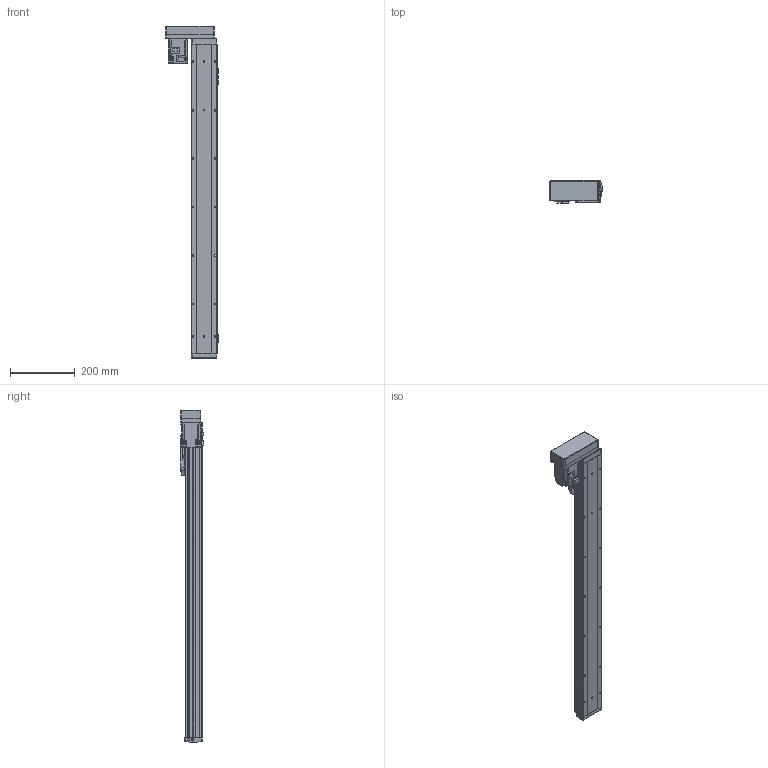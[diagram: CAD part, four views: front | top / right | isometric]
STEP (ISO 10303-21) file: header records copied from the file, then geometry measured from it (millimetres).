
FILE_DESCRIPTION (( 'STEP AP214' ), '1' );
FILE_NAME ('GSH8-800-BR-M20-1.step', '2025-01-07T06:11:22', ( '' ), ( '' ), 'SwSTEP 2.0', 'SolidWorks 2012', '' );
FILE_SCHEMA (( 'AUTOMOTIVE_DESIGN' ));
Length unit declared in the file: millimetre
Products named in the file (5): GSH8-800-BR-M20-1; GSH8-BL-011-800-M20; GSH8-BL-008; HG-KR23_200W_Motor; GSH8-GY-004
Assembly tree (4 placements, depth 2):
  GSH8-800-BR-M20-1
    GSH8-BL-011-800-M20
    GSH8-GY-004
    GSH8-BL-008
    HG-KR23_200W_Motor
Bounding box: 163 x 71.3 x 1028.2 mm (x, y, z)
Volume: 2392160.2 mm3; surface area: 611193.9 mm2
Topology: 4 solids, 8 shells, 1142 faces, 3002 edges, 1933 vertices
Faces by surface type: plane 642, cylinder 404, torus 42, cone 26, bspline 24, sphere 4
Entity records: 45890 total; most frequent: CARTESIAN_POINT 11330, DIRECTION 6098, ORIENTED_EDGE 5988, EDGE_CURVE 2994, AXIS2_PLACEMENT_3D 2057, VECTOR 1984, LINE 1984, VERTEX_POINT 1929
